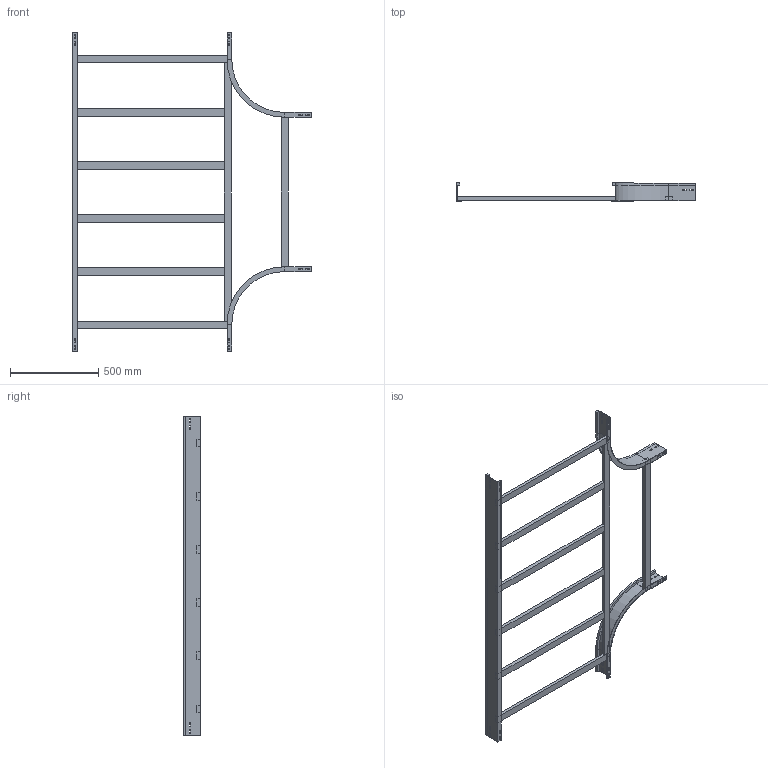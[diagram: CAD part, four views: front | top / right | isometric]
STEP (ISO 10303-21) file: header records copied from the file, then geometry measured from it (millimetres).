
FILE_DESCRIPTION (( 'STEP AP214' ), '1' );
FILE_NAME ('A2_15B3D900.step', '2025-02-21T15:49:56', ( '' ), ( '' ), 'SwSTEP 2.0', 'SolidWorks 2023', '' );
FILE_SCHEMA (( 'AUTOMOTIVE_DESIGN' ));
Length unit declared in the file: millimetre
Products named in the file (6): TRAVERSINO_900; A2_LONGH.RETT_H100_R300+900; TRAVERSINO_INTERMEDIO_R300+900; A2_LONGH.INTERNO 90°_H100_R300; A2_TRAVERSINO_LONG._R300+900; A2_15B3D900
Assembly tree (11 placements, depth 2):
  A2_15B3D900
    A2_LONGH.INTERNO 90°_H100_R300  x2
    A2_LONGH.RETT_H100_R300+900
    TRAVERSINO_900  x3
    A2_TRAVERSINO_LONG._R300+900
    TRAVERSINO_INTERMEDIO_R300+900  x4
Bounding box: 1350 x 100 x 1800 mm (x, y, z)
Volume: 7610216 mm3; surface area: 1887546.3 mm2
Topology: 11 solids, 11 shells, 206 faces, 520 edges, 336 vertices
Faces by surface type: plane 198, cylinder 8
Entity records: 3831 total; most frequent: CARTESIAN_POINT 640, ORIENTED_EDGE 616, DIRECTION 580, EDGE_CURVE 308, VECTOR 300, LINE 300, VERTEX_POINT 200, EDGE_LOOP 150
